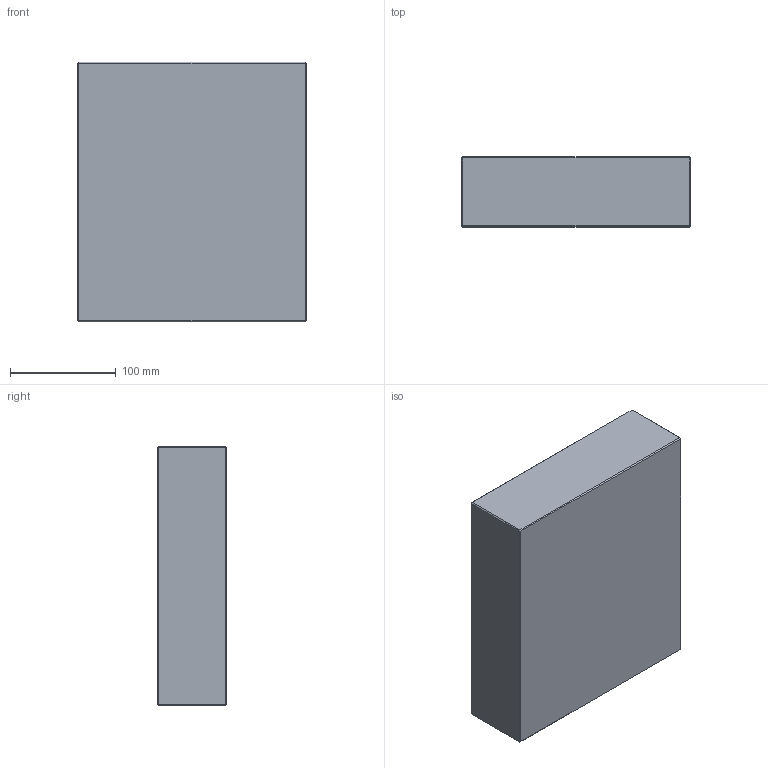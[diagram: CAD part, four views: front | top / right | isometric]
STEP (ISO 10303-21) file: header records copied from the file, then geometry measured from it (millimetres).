
FILE_DESCRIPTION (( 'STEP AP214' ), '1' );
FILE_NAME ('PC-P-216x246x66.STEP', '2020-04-01T08:12:54', ( 'August' ), ( '' ), 'SwSTEP 2.0', 'SolidWorks 2018', '' );
FILE_SCHEMA (( 'AUTOMOTIVE_DESIGN' ));
Length unit declared in the file: millimetre
Products named in the file (1): PC-P-216x246x66
Bounding box: 216 x 66 x 246 mm (x, y, z)
Volume: 3505925.3 mm3; surface area: 166015.8 mm2
Topology: 1 solids, 1 shells, 26 faces, 48 edges, 24 vertices
Faces by surface type: plane 26
Entity records: 634 total; most frequent: DIRECTION 102, CARTESIAN_POINT 99, ORIENTED_EDGE 96, VECTOR 48, LINE 48, EDGE_CURVE 48, AXIS2_PLACEMENT_3D 27, EDGE_LOOP 26
